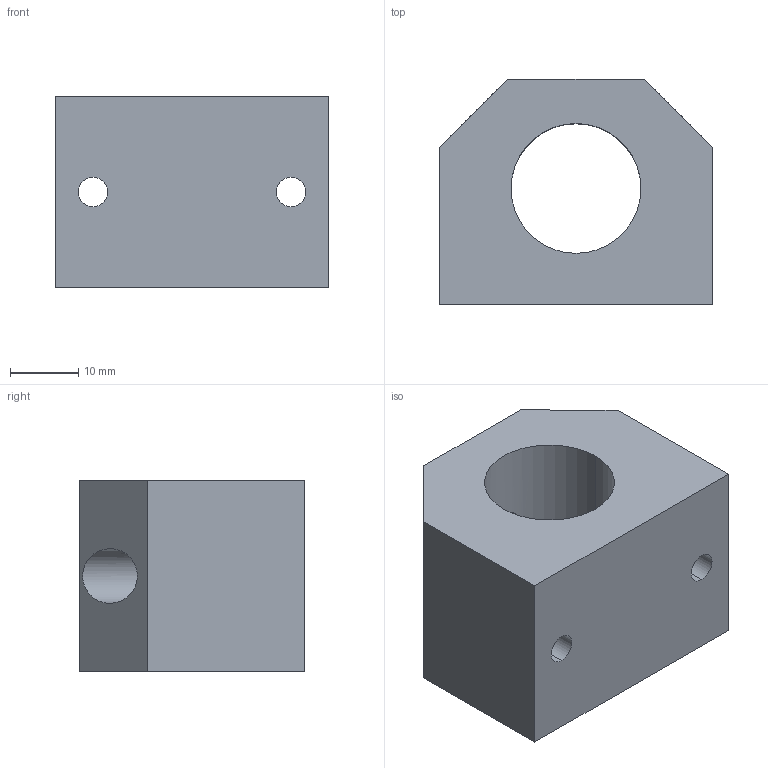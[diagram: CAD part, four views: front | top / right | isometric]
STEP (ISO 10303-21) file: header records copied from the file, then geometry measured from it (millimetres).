
FILE_DESCRIPTION (( 'STEP AP214' ), '1' );
FILE_NAME ('KGC27-12.step', '2020-03-04T13:05:51', ( '' ), ( '' ), 'SwSTEP 2.0', 'SolidWorks 2019', '' );
FILE_SCHEMA (( 'AUTOMOTIVE_DESIGN' ));
Length unit declared in the file: millimetre
Products named in the file (1): KGC27-12
Bounding box: 40 x 33 x 28 mm (x, y, z)
Volume: 24243.3 mm3; surface area: 8337.6 mm2
Topology: 1 solids, 1 shells, 22 faces, 54 edges, 36 vertices
Faces by surface type: cylinder 12, plane 10
Entity records: 832 total; most frequent: CARTESIAN_POINT 189, DIRECTION 112, ORIENTED_EDGE 108, EDGE_CURVE 54, AXIS2_PLACEMENT_3D 41, VERTEX_POINT 36, EDGE_LOOP 32, LINE 30
